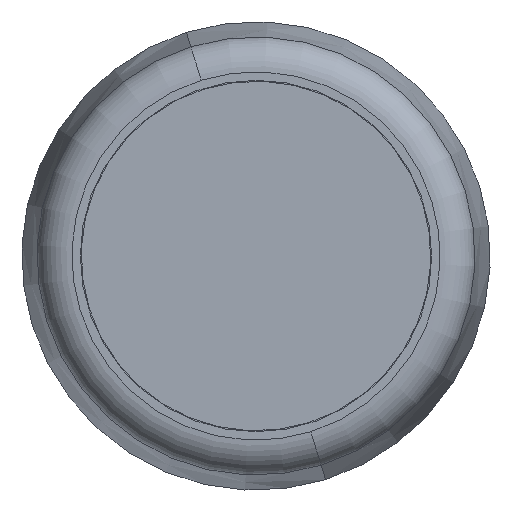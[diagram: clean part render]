
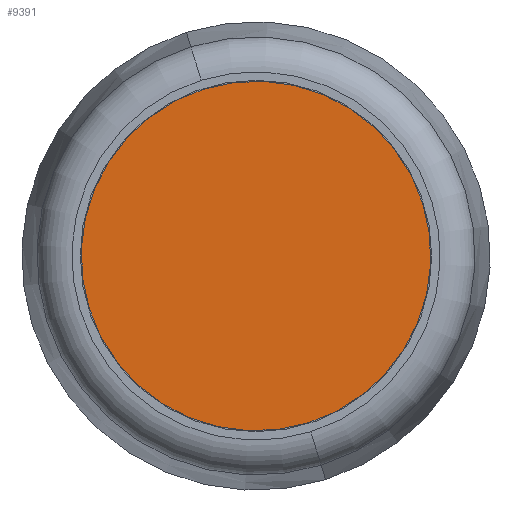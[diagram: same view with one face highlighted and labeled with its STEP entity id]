
A CAD part, front view. The second image highlights one B-rep face of the part: STEP entity #9391.
In plain terms, the highlighted planar face has unit normal (0, -1, 0).
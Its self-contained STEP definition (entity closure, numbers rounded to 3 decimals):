
#502 = DIRECTION ( 'NONE',  ( 0., 1., 0. ) ) ;
#1445 = CIRCLE ( 'NONE', #2288, 3. ) ;
#1493 = EDGE_CURVE ( 'NONE', #10331, #3168, #1445, .T. ) ;
#1575 = DIRECTION ( 'NONE',  ( 0., 1., 0. ) ) ;
#2288 = AXIS2_PLACEMENT_3D ( 'NONE', #3506, #4615, #7529 ) ;
#2753 = AXIS2_PLACEMENT_3D ( 'NONE', #11682, #1575, #6714 ) ;
#3168 = VERTEX_POINT ( 'NONE', #7797 ) ;
#3506 = CARTESIAN_POINT ( 'NONE',  ( 0., 0.2, 0. ) ) ;
#4389 = EDGE_CURVE ( 'NONE', #3168, #10331, #8462, .T. ) ;
#4615 = DIRECTION ( 'NONE',  ( 0., 1., 0. ) ) ;
#6714 = DIRECTION ( 'NONE',  ( 0., 0., 1. ) ) ;
#6995 = EDGE_LOOP ( 'NONE', ( #10268, #12155 ) ) ;
#7311 = PLANE ( 'NONE',  #12948 ) ;
#7529 = DIRECTION ( 'NONE',  ( 0., 0., 1. ) ) ;
#7797 = CARTESIAN_POINT ( 'NONE',  ( 0., 0.2, -3. ) ) ;
#8462 = CIRCLE ( 'NONE', #2753, 3. ) ;
#8716 = CARTESIAN_POINT ( 'NONE',  ( 0., 0.2, 3. ) ) ;
#9391 = ADVANCED_FACE ( 'NONE', ( #10608 ), #7311, .F. ) ;
#10268 = ORIENTED_EDGE ( 'NONE', *, *, #1493, .F. ) ;
#10331 = VERTEX_POINT ( 'NONE', #8716 ) ;
#10417 = CARTESIAN_POINT ( 'NONE',  ( -3.068, 0.2, -10. ) ) ;
#10608 = FACE_OUTER_BOUND ( 'NONE', #6995, .T. ) ;
#11349 = DIRECTION ( 'NONE',  ( 0., 0., 1. ) ) ;
#11682 = CARTESIAN_POINT ( 'NONE',  ( 0., 0.2, 0. ) ) ;
#12155 = ORIENTED_EDGE ( 'NONE', *, *, #4389, .F. ) ;
#12948 = AXIS2_PLACEMENT_3D ( 'NONE', #10417, #502, #11349 ) ;
